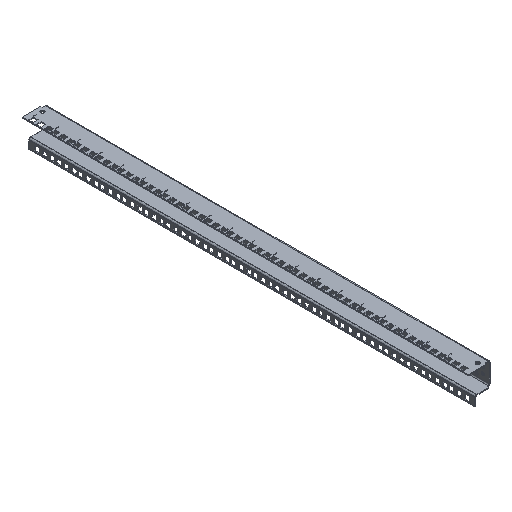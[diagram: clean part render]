
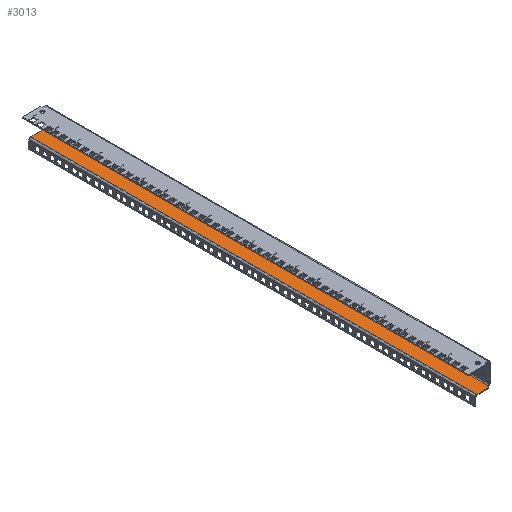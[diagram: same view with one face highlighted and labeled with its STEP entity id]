
A CAD part, isometric view. The second image highlights one B-rep face of the part: STEP entity #3013.
In plain terms, the highlighted planar face has unit normal (0, 0, 1).
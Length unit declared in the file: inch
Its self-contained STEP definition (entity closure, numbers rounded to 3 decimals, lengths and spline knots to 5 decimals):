
#306 = VERTEX_POINT ( 'NONE', #3769 ) ;
#665 = CARTESIAN_POINT ( 'NONE',  ( -17.8878, 1.191, -1.707 ) ) ;
#991 = DIRECTION ( 'NONE',  ( 0., 0., -1. ) ) ;
#1006 = ORIENTED_EDGE ( 'NONE', *, *, #19559, .T. ) ;
#1441 = VERTEX_POINT ( 'NONE', #25357 ) ;
#2869 = VECTOR ( 'NONE', #9560, 39.37008 ) ;
#2980 = ORIENTED_EDGE ( 'NONE', *, *, #25134, .T. ) ;
#3013 = ADVANCED_FACE ( 'NONE', ( #15884 ), #7634, .F. ) ;
#3042 = EDGE_CURVE ( 'NONE', #306, #25776, #10652, .T. ) ;
#3197 = VERTEX_POINT ( 'NONE', #19962 ) ;
#3401 = CARTESIAN_POINT ( 'NONE',  ( 17.8878, 1.191, -1.707 ) ) ;
#3769 = CARTESIAN_POINT ( 'NONE',  ( 17.8878, 0.236, -1.707 ) ) ;
#4767 = VECTOR ( 'NONE', #10990, 39.37008 ) ;
#5469 = LINE ( 'NONE', #17733, #4767 ) ;
#5654 = VERTEX_POINT ( 'NONE', #27713 ) ;
#6061 = CARTESIAN_POINT ( 'NONE',  ( 17.8878, 0., -1.707 ) ) ;
#6492 = VERTEX_POINT ( 'NONE', #8606 ) ;
#6952 = EDGE_CURVE ( 'NONE', #6492, #306, #17759, .T. ) ;
#7349 = CARTESIAN_POINT ( 'NONE',  ( 17.8878, 1.191, -1.707 ) ) ;
#7509 = VECTOR ( 'NONE', #19899, 39.37008 ) ;
#7634 = PLANE ( 'NONE',  #17251 ) ;
#7764 = VERTEX_POINT ( 'NONE', #18041 ) ;
#7863 = DIRECTION ( 'NONE',  ( 1., 0., 0. ) ) ;
#8226 = EDGE_CURVE ( 'NONE', #5654, #10640, #15238, .T. ) ;
#8394 = LINE ( 'NONE', #12181, #19540 ) ;
#8606 = CARTESIAN_POINT ( 'NONE',  ( 17.75, 0.236, -1.707 ) ) ;
#9239 = ORIENTED_EDGE ( 'NONE', *, *, #23388, .F. ) ;
#9340 = VECTOR ( 'NONE', #19901, 39.37008 ) ;
#9560 = DIRECTION ( 'NONE',  ( -1., 0., 0. ) ) ;
#10511 = DIRECTION ( 'NONE',  ( 0., 1., 0. ) ) ;
#10640 = VERTEX_POINT ( 'NONE', #665 ) ;
#10652 = LINE ( 'NONE', #6061, #21117 ) ;
#10926 = CARTESIAN_POINT ( 'NONE',  ( -17.8878, 0., -1.707 ) ) ;
#10990 = DIRECTION ( 'NONE',  ( 0., 1., 0. ) ) ;
#11556 = ORIENTED_EDGE ( 'NONE', *, *, #6952, .T. ) ;
#11831 = VECTOR ( 'NONE', #7863, 39.37008 ) ;
#12181 = CARTESIAN_POINT ( 'NONE',  ( -17.8878, 0.152, -1.707 ) ) ;
#12652 = DIRECTION ( 'NONE',  ( 0., 1., 0. ) ) ;
#13303 = ORIENTED_EDGE ( 'NONE', *, *, #16507, .F. ) ;
#14411 = DIRECTION ( 'NONE',  ( 1., 0., 0. ) ) ;
#14703 = LINE ( 'NONE', #7349, #2869 ) ;
#15238 = LINE ( 'NONE', #10926, #9340 ) ;
#15250 = ORIENTED_EDGE ( 'NONE', *, *, #16761, .T. ) ;
#15446 = EDGE_LOOP ( 'NONE', ( #1006, #17685, #9239, #13303, #2980, #15250, #11556, #21556 ) ) ;
#15884 = FACE_OUTER_BOUND ( 'NONE', #15446, .T. ) ;
#16507 = EDGE_CURVE ( 'NONE', #3197, #7764, #5469, .T. ) ;
#16557 = DIRECTION ( 'NONE',  ( -1., 0., 0. ) ) ;
#16705 = CARTESIAN_POINT ( 'NONE',  ( 17.75, 0.236, -1.707 ) ) ;
#16761 = EDGE_CURVE ( 'NONE', #1441, #6492, #25996, .T. ) ;
#17251 = AXIS2_PLACEMENT_3D ( 'NONE', #23191, #991, #16557 ) ;
#17677 = CARTESIAN_POINT ( 'NONE',  ( -17.75, 0.236, -1.707 ) ) ;
#17685 = ORIENTED_EDGE ( 'NONE', *, *, #8226, .F. ) ;
#17733 = CARTESIAN_POINT ( 'NONE',  ( -17.75, 0.152, -1.707 ) ) ;
#17759 = LINE ( 'NONE', #16705, #11831 ) ;
#18041 = CARTESIAN_POINT ( 'NONE',  ( -17.75, 0.236, -1.707 ) ) ;
#19540 = VECTOR ( 'NONE', #14411, 39.37008 ) ;
#19559 = EDGE_CURVE ( 'NONE', #25776, #10640, #14703, .T. ) ;
#19899 = DIRECTION ( 'NONE',  ( -1., 0., 0. ) ) ;
#19901 = DIRECTION ( 'NONE',  ( 0., 1., 0. ) ) ;
#19962 = CARTESIAN_POINT ( 'NONE',  ( -17.75, 0.152, -1.707 ) ) ;
#20080 = VECTOR ( 'NONE', #12652, 39.37008 ) ;
#21117 = VECTOR ( 'NONE', #10511, 39.37008 ) ;
#21556 = ORIENTED_EDGE ( 'NONE', *, *, #3042, .T. ) ;
#23191 = CARTESIAN_POINT ( 'NONE',  ( -17.8878, 0., -1.707 ) ) ;
#23388 = EDGE_CURVE ( 'NONE', #7764, #5654, #24547, .T. ) ;
#24547 = LINE ( 'NONE', #17677, #7509 ) ;
#25134 = EDGE_CURVE ( 'NONE', #3197, #1441, #8394, .T. ) ;
#25357 = CARTESIAN_POINT ( 'NONE',  ( 17.75, 0.152, -1.707 ) ) ;
#25776 = VERTEX_POINT ( 'NONE', #3401 ) ;
#25996 = LINE ( 'NONE', #28250, #20080 ) ;
#27713 = CARTESIAN_POINT ( 'NONE',  ( -17.8878, 0.236, -1.707 ) ) ;
#28250 = CARTESIAN_POINT ( 'NONE',  ( 17.75, 0.152, -1.707 ) ) ;
